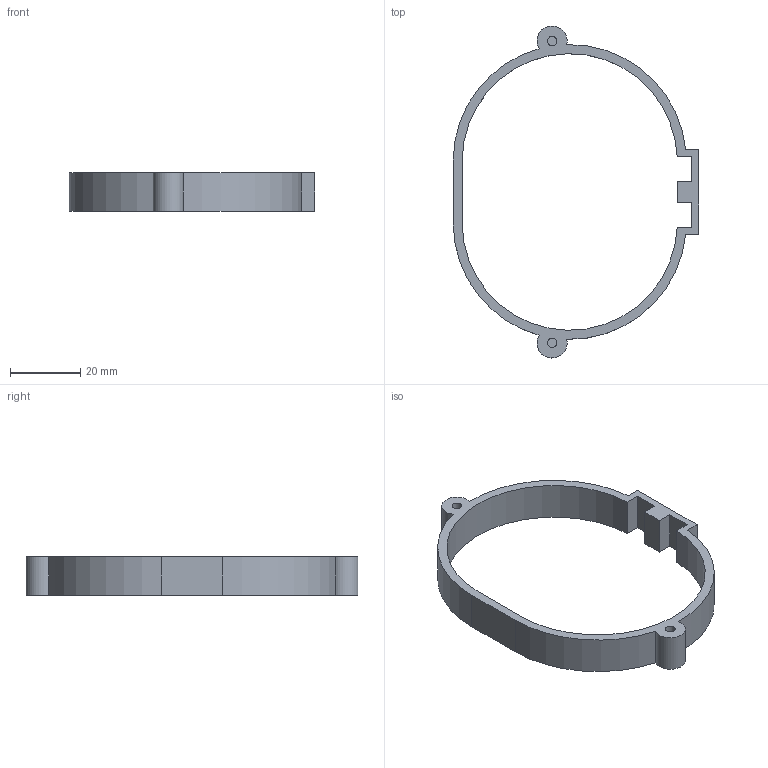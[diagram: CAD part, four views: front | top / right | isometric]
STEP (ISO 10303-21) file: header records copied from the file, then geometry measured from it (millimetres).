
FILE_DESCRIPTION(('Open CASCADE Model'),'2;1');
FILE_NAME('Open CASCADE Shape Model','2026-08-31T17:35:16',('Author'),( 'Open CASCADE'),'Open CASCADE STEP processor 7.8','Open CASCADE 7.8' ,'Unknown');
FILE_SCHEMA(('AUTOMOTIVE_DESIGN { 1 0 10303 214 1 1 1 1 }'));
Length unit declared in the file: millimetre
Products named in the file (1): Open CASCADE STEP translator 7.8 1
Bounding box: 70 x 94.58 x 11 mm (x, y, z)
Volume: 7799.1 mm3; surface area: 7214.8 mm2
Topology: 1 solids, 1 shells, 26 faces, 66 edges, 44 vertices
Faces by surface type: plane 16, cylinder 10
Full cylindrical faces by diameter (mm): 2.7 x2
Entity records: 1634 total; most frequent: CARTESIAN_POINT 369, DIRECTION 212, ORIENTED_EDGE 132, PCURVE 132, DEFINITIONAL_REPRESENTATION 132, LINE 106, VECTOR 106, EDGE_CURVE 66
